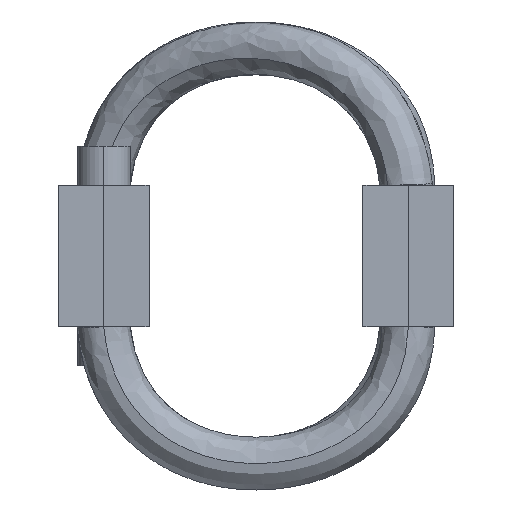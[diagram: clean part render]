
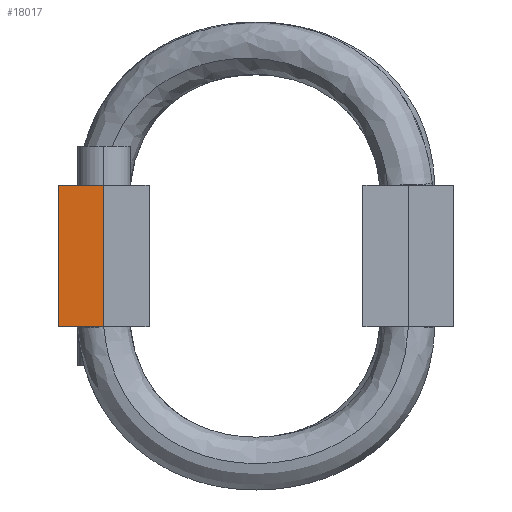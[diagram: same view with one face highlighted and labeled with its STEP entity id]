
A CAD part, left-side view. The second image highlights one B-rep face of the part: STEP entity #18017.
In plain terms, the highlighted planar face has unit normal (-1, 0, 0).
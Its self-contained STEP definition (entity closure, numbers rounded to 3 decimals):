
#1177 = LINE ( 'NONE', #30635, #22730 ) ;
#1441 = ORIENTED_EDGE ( 'NONE', *, *, #10834, .F. ) ;
#2654 = AXIS2_PLACEMENT_3D ( 'NONE', #23182, #6947, #25917 ) ;
#4030 = ORIENTED_EDGE ( 'NONE', *, *, #34502, .F. ) ;
#4138 = EDGE_CURVE ( 'NONE', #4850, #19927, #14614, .T. ) ;
#4850 = VERTEX_POINT ( 'NONE', #23838 ) ;
#5132 = LINE ( 'NONE', #13090, #33057 ) ;
#5964 = CARTESIAN_POINT ( 'NONE',  ( -107.95, 35.5, 12.7 ) ) ;
#6603 = ORIENTED_EDGE ( 'NONE', *, *, #21227, .F. ) ;
#6947 = DIRECTION ( 'NONE',  ( -1., 0., 0. ) ) ;
#7470 = ORIENTED_EDGE ( 'NONE', *, *, #4138, .F. ) ;
#9933 = CARTESIAN_POINT ( 'NONE',  ( -107.95, 27.35, 12.7 ) ) ;
#10834 = EDGE_CURVE ( 'NONE', #19927, #32461, #5132, .T. ) ;
#11690 = VERTEX_POINT ( 'NONE', #16001 ) ;
#13090 = CARTESIAN_POINT ( 'NONE',  ( -107.95, 27.35, -12.7 ) ) ;
#14378 = DIRECTION ( 'NONE',  ( 0., 0., 1. ) ) ;
#14614 = LINE ( 'NONE', #5964, #28182 ) ;
#16001 = CARTESIAN_POINT ( 'NONE',  ( -107.95, 35.5, -12.7 ) ) ;
#18017 = ADVANCED_FACE ( 'NONE', ( #30983 ), #33965, .T. ) ;
#19927 = VERTEX_POINT ( 'NONE', #9933 ) ;
#20894 = DIRECTION ( 'NONE',  ( 0., 1., 0. ) ) ;
#21122 = EDGE_LOOP ( 'NONE', ( #7470, #6603, #4030, #1441 ) ) ;
#21227 = EDGE_CURVE ( 'NONE', #11690, #4850, #1177, .T. ) ;
#22730 = VECTOR ( 'NONE', #14378, 1000. ) ;
#23182 = CARTESIAN_POINT ( 'NONE',  ( -107.95, 31.425, 0. ) ) ;
#23838 = CARTESIAN_POINT ( 'NONE',  ( -107.95, 35.5, 12.7 ) ) ;
#25917 = DIRECTION ( 'NONE',  ( 0., 0., 1. ) ) ;
#28182 = VECTOR ( 'NONE', #33073, 1000. ) ;
#29112 = VECTOR ( 'NONE', #20894, 1000. ) ;
#29980 = LINE ( 'NONE', #31696, #29112 ) ;
#30635 = CARTESIAN_POINT ( 'NONE',  ( -107.95, 35.5, -12.7 ) ) ;
#30983 = FACE_OUTER_BOUND ( 'NONE', #21122, .T. ) ;
#31696 = CARTESIAN_POINT ( 'NONE',  ( -107.95, 35.5, -12.7 ) ) ;
#32065 = DIRECTION ( 'NONE',  ( 0., 0., -1. ) ) ;
#32461 = VERTEX_POINT ( 'NONE', #33564 ) ;
#33057 = VECTOR ( 'NONE', #32065, 1000. ) ;
#33073 = DIRECTION ( 'NONE',  ( 0., -1., 0. ) ) ;
#33564 = CARTESIAN_POINT ( 'NONE',  ( -107.95, 27.35, -12.7 ) ) ;
#33965 = PLANE ( 'NONE',  #2654 ) ;
#34502 = EDGE_CURVE ( 'NONE', #32461, #11690, #29980, .T. ) ;
